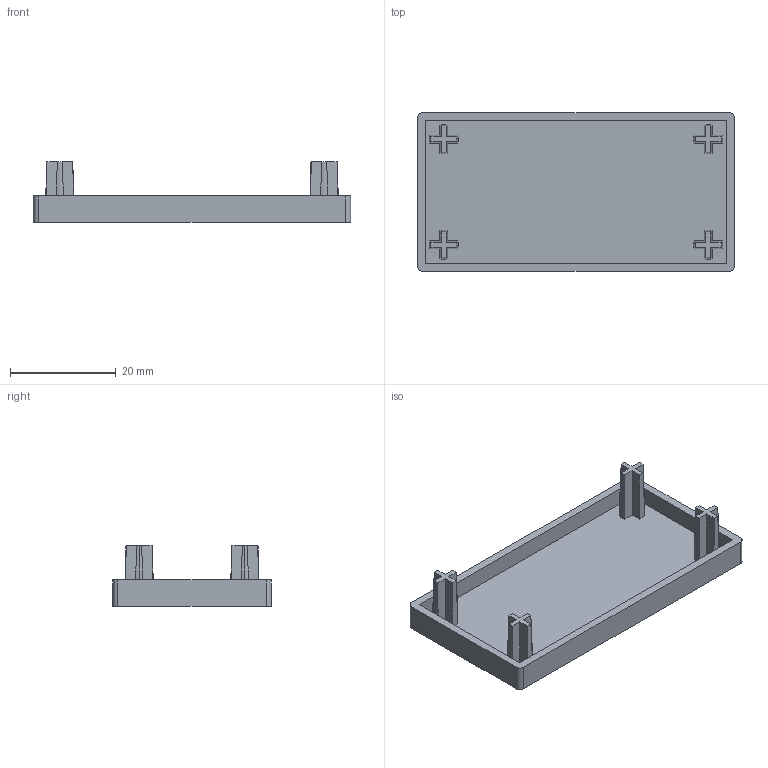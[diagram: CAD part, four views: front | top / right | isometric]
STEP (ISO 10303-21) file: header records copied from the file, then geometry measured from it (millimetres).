
FILE_DESCRIPTION (( 'STEP AP203' ), '1' );
FILE_NAME ('EC3060-6.STEP', '2024-02-17T07:13:38', ( '' ), ( '' ), 'SwSTEP 2.0', 'SolidWorks 2022', '' );
FILE_SCHEMA (( 'CONFIG_CONTROL_DESIGN' ));
Length unit declared in the file: millimetre
Products named in the file (1): EC3060-6
Bounding box: 60 x 30 x 11.5 mm (x, y, z)
Volume: 4062.6 mm3; surface area: 5872.7 mm2
Topology: 1 solids, 1 shells, 71 faces, 192 edges, 128 vertices
Faces by surface type: plane 47, cone 20, cylinder 4
Entity records: 2439 total; most frequent: CARTESIAN_POINT 584, ORIENTED_EDGE 384, DIRECTION 352, EDGE_CURVE 192, VERTEX_POINT 128, AXIS2_PLACEMENT_3D 120, LINE 112, VECTOR 112
